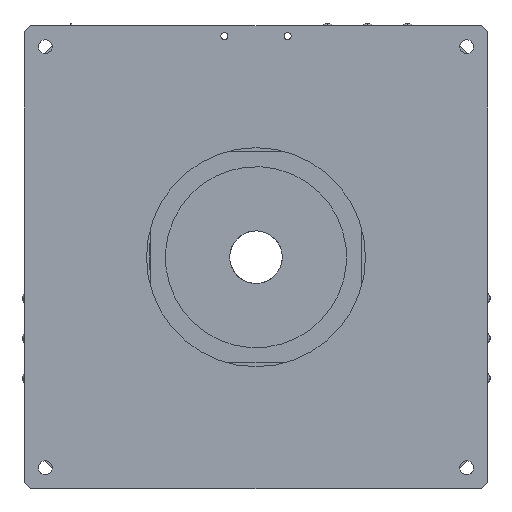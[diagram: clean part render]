
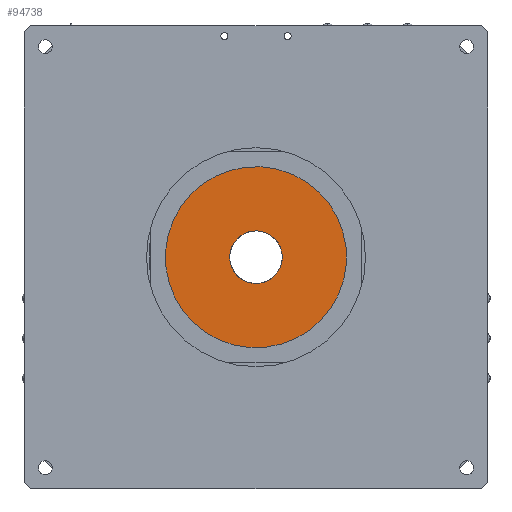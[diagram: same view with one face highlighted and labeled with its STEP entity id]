
A CAD part, front view. The second image highlights one B-rep face of the part: STEP entity #94738.
In plain terms, the highlighted planar face has unit normal (0, -1, 0).
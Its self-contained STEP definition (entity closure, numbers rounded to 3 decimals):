
#9831 = AXIS2_PLACEMENT_3D ( 'NONE', #111537, #11334, #49998 ) ;
#10645 = EDGE_CURVE ( 'NONE', #82971, #44263, #75610, .T. ) ;
#10835 = EDGE_CURVE ( 'NONE', #44263, #82971, #95910, .T. ) ;
#11334 = DIRECTION ( 'NONE',  ( 0., 1., 0. ) ) ;
#12852 = AXIS2_PLACEMENT_3D ( 'NONE', #73077, #17216, #82459 ) ;
#13077 = ORIENTED_EDGE ( 'NONE', *, *, #10645, .F. ) ;
#14992 = VERTEX_POINT ( 'NONE', #94843 ) ;
#15566 = CARTESIAN_POINT ( 'NONE',  ( -18.526, -17.195, 210.988 ) ) ;
#15932 = VERTEX_POINT ( 'NONE', #15566 ) ;
#17216 = DIRECTION ( 'NONE',  ( 0., -1., 0. ) ) ;
#18412 = AXIS2_PLACEMENT_3D ( 'NONE', #81820, #41964, #25933 ) ;
#18617 = CARTESIAN_POINT ( 'NONE',  ( -39.661, -17.195, 188.998 ) ) ;
#19746 = ORIENTED_EDGE ( 'NONE', *, *, #71485, .F. ) ;
#24818 = CIRCLE ( 'NONE', #12852, 12.5 ) ;
#25933 = DIRECTION ( 'NONE',  ( 0.693, 0., 0.721 ) ) ;
#29590 = CARTESIAN_POINT ( 'NONE',  ( -9.864, -17.195, 220. ) ) ;
#33108 = AXIS2_PLACEMENT_3D ( 'NONE', #104283, #48522, #113666 ) ;
#38973 = DIRECTION ( 'NONE',  ( 0., 1., 0. ) ) ;
#41964 = DIRECTION ( 'NONE',  ( 0., 1., 0. ) ) ;
#43141 = CIRCLE ( 'NONE', #33108, 12.5 ) ;
#44263 = VERTEX_POINT ( 'NONE', #82978 ) ;
#45492 = EDGE_LOOP ( 'NONE', ( #13077, #99430 ) ) ;
#47703 = EDGE_LOOP ( 'NONE', ( #49646, #19746 ) ) ;
#48522 = DIRECTION ( 'NONE',  ( 0., -1., 0. ) ) ;
#49646 = ORIENTED_EDGE ( 'NONE', *, *, #75806, .F. ) ;
#49980 = FACE_OUTER_BOUND ( 'NONE', #45492, .T. ) ;
#49998 = DIRECTION ( 'NONE',  ( 0.693, 0., 0.721 ) ) ;
#68901 = FACE_BOUND ( 'NONE', #47703, .T. ) ;
#71485 = EDGE_CURVE ( 'NONE', #15932, #14992, #24818, .T. ) ;
#73077 = CARTESIAN_POINT ( 'NONE',  ( -9.864, -17.195, 220. ) ) ;
#75610 = CIRCLE ( 'NONE', #18412, 43. ) ;
#75806 = EDGE_CURVE ( 'NONE', #14992, #15932, #43141, .T. ) ;
#81820 = CARTESIAN_POINT ( 'NONE',  ( -9.864, -17.195, 220. ) ) ;
#82459 = DIRECTION ( 'NONE',  ( 0.693, 0., 0.721 ) ) ;
#82971 = VERTEX_POINT ( 'NONE', #18617 ) ;
#82978 = CARTESIAN_POINT ( 'NONE',  ( 19.933, -17.195, 251.002 ) ) ;
#84398 = AXIS2_PLACEMENT_3D ( 'NONE', #29590, #38973, #104144 ) ;
#94738 = ADVANCED_FACE ( 'NONE', ( #68901, #49980 ), #94746, .F. ) ;
#94746 = PLANE ( 'NONE',  #84398 ) ;
#94843 = CARTESIAN_POINT ( 'NONE',  ( -1.202, -17.195, 229.012 ) ) ;
#95910 = CIRCLE ( 'NONE', #9831, 43. ) ;
#99430 = ORIENTED_EDGE ( 'NONE', *, *, #10835, .F. ) ;
#104144 = DIRECTION ( 'NONE',  ( 0.693, 0., 0.721 ) ) ;
#104283 = CARTESIAN_POINT ( 'NONE',  ( -9.864, -17.195, 220. ) ) ;
#111537 = CARTESIAN_POINT ( 'NONE',  ( -9.864, -17.195, 220. ) ) ;
#113666 = DIRECTION ( 'NONE',  ( 0.693, 0., 0.721 ) ) ;
